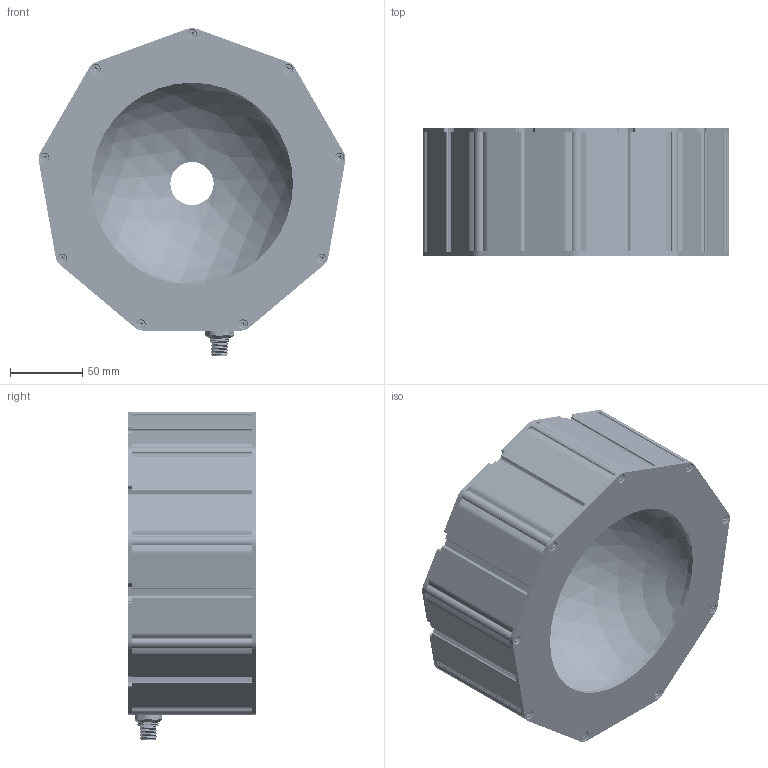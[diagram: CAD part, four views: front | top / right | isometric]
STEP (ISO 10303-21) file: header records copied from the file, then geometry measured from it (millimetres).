
FILE_DESCRIPTION (( 'STEP AP214' ), '1' );
FILE_NAME ('DDL 150_R3.STEP', '2016-09-02T16:45:38', ( '' ), ( '' ), 'SwSTEP 2.0', 'SolidWorks 2015', '' );
FILE_SCHEMA (( 'AUTOMOTIVE_DESIGN' ));
Length unit declared in the file: millimetre
Products named in the file (17): 91420A124_91420A124; DDL_150_Plate_140_hole_wo Tslot; DOME-00544-01-R1_6.25 in; DDL 150_R3; ASM-00544-03; M12_Male; PCB-00544-03; SMT-00549-01; Duris P5; S4B-XH-SM4-TB_4 pin; PCB-00549-01; M12 Nut; DDL-150-RR; DDL_150_Plate_30_hole; EXT-DDL-150-ASM; EXT-DDL-150_82.7mm; EXT-DDL-150_82.7mm_Driver
Assembly tree (80 placements, depth 3):
  DDL 150_R3
    DOME-00544-01-R1_6.25 in
    DDL_150_Plate_140_hole_wo Tslot
    91420A124_91420A124  x18
    EXT-DDL-150-ASM
      EXT-DDL-150_82.7mm_Driver
      EXT-DDL-150_82.7mm  x8
    DDL_150_Plate_30_hole
    DDL-150-RR
    M12 Nut
    SMT-00549-01
      PCB-00549-01
      S4B-XH-SM4-TB_4 pin
      Duris P5  x40
    ASM-00544-03
      PCB-00544-03
      S4B-XH-SM4-TB_4 pin
      M12_Male
Bounding box: 212.73 x 89.05 x 227.44 mm (x, y, z)
Volume: 393865.1 mm3; surface area: 410712.9 mm2
Topology: 77 solids, 78 shells, 4991 faces, 13806 edges, 9102 vertices
Faces by surface type: cylinder 2760, plane 1603, cone 348, bspline 106, torus 90, sphere 84
Entity records: 72403 total; most frequent: CARTESIAN_POINT 31908, ORIENTED_EDGE 7700, DIRECTION 7575, EDGE_CURVE 3850, AXIS2_PLACEMENT_3D 2872, VERTEX_POINT 2540, VECTOR 1831, LINE 1831
